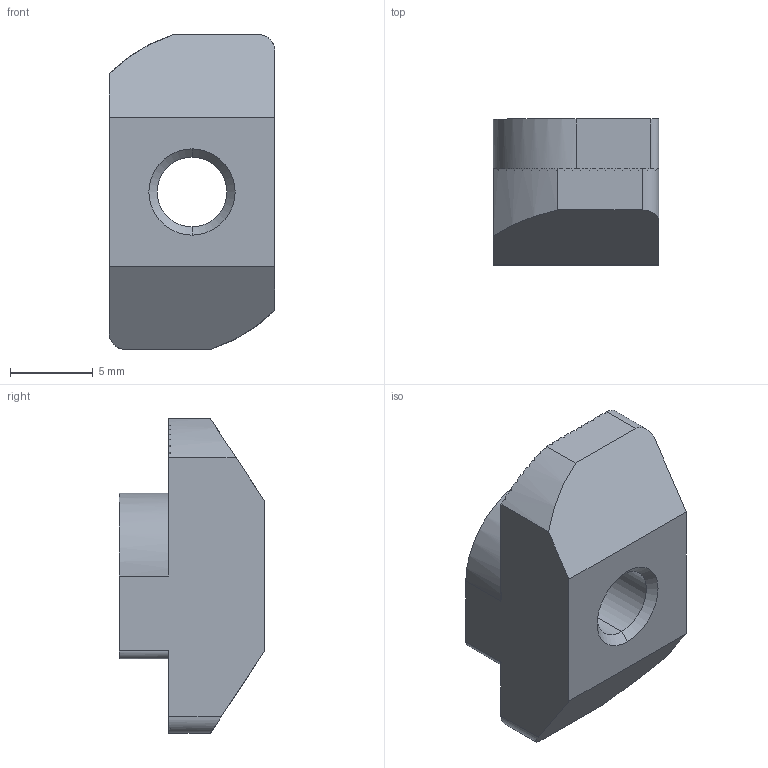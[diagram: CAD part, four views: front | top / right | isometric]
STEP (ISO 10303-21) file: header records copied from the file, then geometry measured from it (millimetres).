
FILE_DESCRIPTION (( 'STEP AP203' ), '1' );
FILE_NAME ('LIMA-RN5-104545.STEP', '2018-03-15T12:24:35', ( '' ), ( '' ), 'SwSTEP 2.0', 'SolidWorks 2013', '' );
FILE_SCHEMA (( 'CONFIG_CONTROL_DESIGN' ));
Length unit declared in the file: millimetre
Products named in the file (1): LIMA-RN5-104545
Bounding box: 10 x 8.8 x 19 mm (x, y, z)
Volume: 1047.6 mm3; surface area: 811.6 mm2
Topology: 1 solids, 1 shells, 146 faces, 428 edges, 284 vertices
Faces by surface type: plane 132, cylinder 10, cone 4
Entity records: 4882 total; most frequent: CARTESIAN_POINT 1123, ORIENTED_EDGE 856, DIRECTION 695, EDGE_CURVE 428, VERTEX_POINT 284, VECTOR 279, LINE 279, AXIS2_PLACEMENT_3D 208
